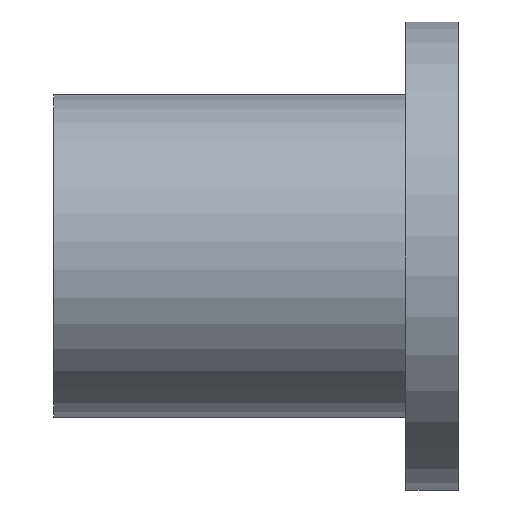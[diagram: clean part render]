
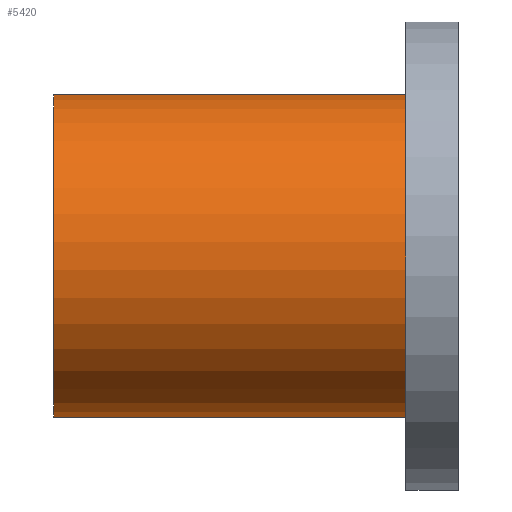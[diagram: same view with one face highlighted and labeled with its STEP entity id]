
A CAD part, front view. The second image highlights one B-rep face of the part: STEP entity #5420.
In plain terms, the highlighted cylindrical face has radius 40 mm (diameter 80 mm), a full revolution.
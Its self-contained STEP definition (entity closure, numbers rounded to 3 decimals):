
#80=CYLINDRICAL_SURFACE('',#5766,40.);
#107=CIRCLE('',#5767,40.);
#108=CIRCLE('',#5768,40.);
#1642=ORIENTED_EDGE('',*,*,#3204,.T.);
#1643=ORIENTED_EDGE('',*,*,#3205,.T.);
#3204=EDGE_CURVE('',#3985,#3985,#107,.T.);
#3205=EDGE_CURVE('',#3986,#3986,#108,.F.);
#3985=VERTEX_POINT('',#8598);
#3986=VERTEX_POINT('',#8600);
#4434=EDGE_LOOP('',(#1642));
#4435=EDGE_LOOP('',(#1643));
#4827=FACE_BOUND('',#4434,.T.);
#4828=FACE_BOUND('',#4435,.T.);
#5420=ADVANCED_FACE('',(#4827,#4828),#80,.T.);
#5766=AXIS2_PLACEMENT_3D('',#8596,#6258,#6259);
#5767=AXIS2_PLACEMENT_3D('',#8597,#6260,#6261);
#5768=AXIS2_PLACEMENT_3D('',#8599,#6262,#6263);
#6258=DIRECTION('',(1.,0.,0.));
#6259=DIRECTION('',(0.,0.707,-0.707));
#6260=DIRECTION('',(1.,0.,0.));
#6261=DIRECTION('',(0.,0.707,-0.707));
#6262=DIRECTION('',(1.,0.,0.));
#6263=DIRECTION('',(0.,0.707,-0.707));
#8596=CARTESIAN_POINT('',(-50.,0.,0.));
#8597=CARTESIAN_POINT('',(-50.,0.,0.));
#8598=CARTESIAN_POINT('',(-50.,28.284,-28.284));
#8599=CARTESIAN_POINT('',(37.,0.,0.));
#8600=CARTESIAN_POINT('',(37.,28.284,-28.284));
